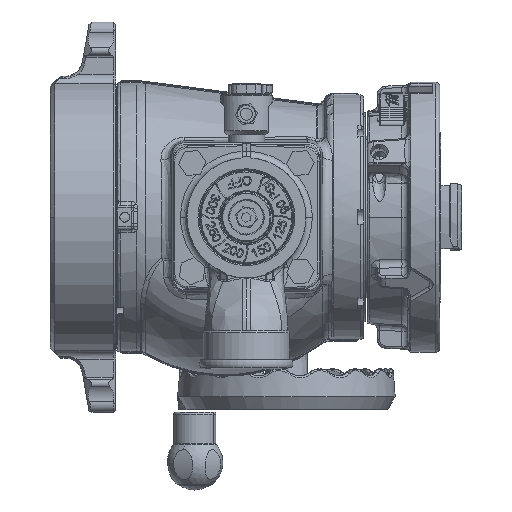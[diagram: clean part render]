
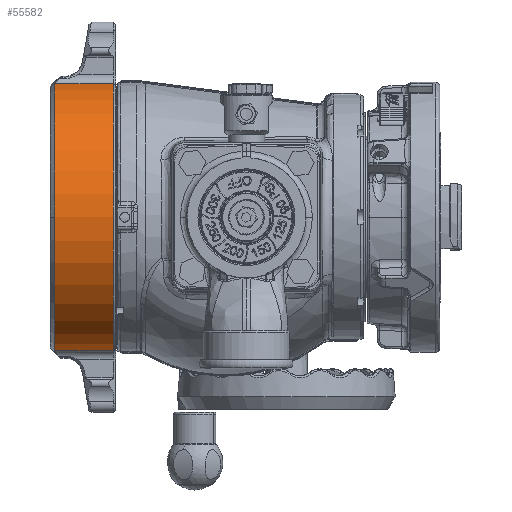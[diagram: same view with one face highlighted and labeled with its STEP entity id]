
A CAD part, front view. The second image highlights one B-rep face of the part: STEP entity #55582.
In plain terms, the highlighted cylindrical face has radius 98.425 mm (diameter 196.85 mm), a partial arc.
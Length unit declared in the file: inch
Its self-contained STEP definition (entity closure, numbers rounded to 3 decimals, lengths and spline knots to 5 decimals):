
#2963 = CIRCLE ( 'NONE', #10402, 3.875 ) ;
#8899 = AXIS2_PLACEMENT_3D ( 'NONE', #112428, #112430, #112432 ) ;
#8902 = AXIS2_PLACEMENT_3D ( 'NONE', #112441, #112443, #112445 ) ;
#10402 = AXIS2_PLACEMENT_3D ( 'NONE', #179933, #179937, #179941 ) ;
#35260 = EDGE_CURVE ( 'NONE', #122765, #122761, #107354, .T. ) ;
#35264 = EDGE_CURVE ( 'NONE', #122761, #122763, #107350, .T. ) ;
#35267 = EDGE_CURVE ( 'NONE', #122913, #122763, #107356, .T. ) ;
#35269 = EDGE_CURVE ( 'NONE', #122765, #122914, #107360, .T. ) ;
#43305 = EDGE_LOOP ( 'NONE', ( #106816, #106818, #106820, #106822, #106824 ) ) ;
#51223 = EDGE_CURVE ( 'NONE', #122914, #122913, #2963, .T. ) ;
#55582 = ADVANCED_FACE ( 'NONE', ( #70028 ), #70030, .T. ) ;
#70028 = FACE_OUTER_BOUND ( 'NONE', #43305, .T. ) ;
#70030 = CYLINDRICAL_SURFACE ( 'NONE', #93035, 3.875 ) ;
#86805 = DIRECTION ( 'NONE',  ( 1., 0., 0. ) ) ;
#86835 = CARTESIAN_POINT ( 'NONE',  ( -6.01215, -0.44219, 0. ) ) ;
#86838 = DIRECTION ( 'NONE',  ( 0., 0., -1. ) ) ;
#93035 = AXIS2_PLACEMENT_3D ( 'NONE', #86835, #86805, #86838 ) ;
#106816 = ORIENTED_EDGE ( 'NONE', *, *, #35260, .T. ) ;
#106818 = ORIENTED_EDGE ( 'NONE', *, *, #35264, .T. ) ;
#106820 = ORIENTED_EDGE ( 'NONE', *, *, #35267, .F. ) ;
#106822 = ORIENTED_EDGE ( 'NONE', *, *, #51223, .F. ) ;
#106824 = ORIENTED_EDGE ( 'NONE', *, *, #35269, .F. ) ;
#107350 = CIRCLE ( 'NONE', #8899, 3.875 ) ;
#107354 = LINE ( 'NONE', #112364, #107358 ) ;
#107356 = LINE ( 'NONE', #112381, #107364 ) ;
#107358 = VECTOR ( 'NONE', #112367, 39.37008 ) ;
#107360 = CIRCLE ( 'NONE', #8902, 3.875 ) ;
#107364 = VECTOR ( 'NONE', #112391, 39.37008 ) ;
#112364 = CARTESIAN_POINT ( 'NONE',  ( -6.01215, -1.13098, -3.81329 ) ) ;
#112367 = DIRECTION ( 'NONE',  ( 1., 0., 0. ) ) ;
#112381 = CARTESIAN_POINT ( 'NONE',  ( -6.01215, -1.13098, 3.81329 ) ) ;
#112391 = DIRECTION ( 'NONE',  ( 1., 0., 0. ) ) ;
#112428 = CARTESIAN_POINT ( 'NONE',  ( -4.21165, -0.44219, 0. ) ) ;
#112430 = DIRECTION ( 'NONE',  ( -1., 0., 0. ) ) ;
#112432 = DIRECTION ( 'NONE',  ( 0., 0., -1. ) ) ;
#112441 = CARTESIAN_POINT ( 'NONE',  ( -5.88715, -0.44219, 0. ) ) ;
#112443 = DIRECTION ( 'NONE',  ( -1., 0., 0. ) ) ;
#112445 = DIRECTION ( 'NONE',  ( 0., 1., 0. ) ) ;
#122761 = VERTEX_POINT ( 'NONE', #126727 ) ;
#122763 = VERTEX_POINT ( 'NONE', #126729 ) ;
#122765 = VERTEX_POINT ( 'NONE', #126731 ) ;
#122913 = VERTEX_POINT ( 'NONE', #126976 ) ;
#122914 = VERTEX_POINT ( 'NONE', #126978 ) ;
#126727 = CARTESIAN_POINT ( 'NONE',  ( -4.21165, -1.13098, -3.81329 ) ) ;
#126729 = CARTESIAN_POINT ( 'NONE',  ( -4.21165, -1.13098, 3.81329 ) ) ;
#126731 = CARTESIAN_POINT ( 'NONE',  ( -5.88715, -1.13098, -3.81329 ) ) ;
#126976 = CARTESIAN_POINT ( 'NONE',  ( -5.88715, -1.13098, 3.81329 ) ) ;
#126978 = CARTESIAN_POINT ( 'NONE',  ( -5.88715, -4.31719, 0. ) ) ;
#179933 = CARTESIAN_POINT ( 'NONE',  ( -5.88715, -0.44219, 0. ) ) ;
#179937 = DIRECTION ( 'NONE',  ( -1., 0., 0. ) ) ;
#179941 = DIRECTION ( 'NONE',  ( 0., 1., 0. ) ) ;
